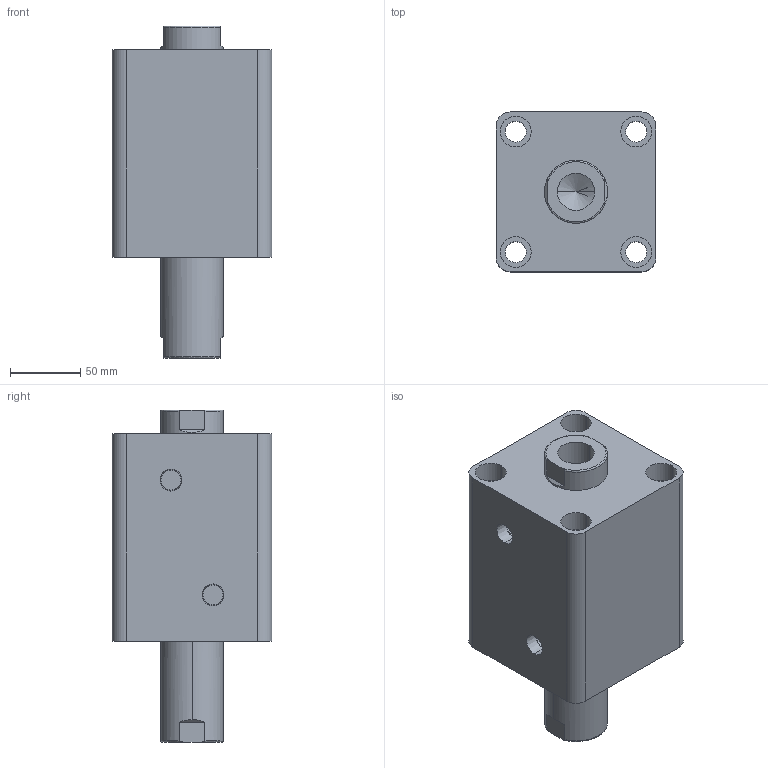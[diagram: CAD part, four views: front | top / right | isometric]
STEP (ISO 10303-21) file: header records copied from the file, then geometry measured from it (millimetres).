
FILE_DESCRIPTION (( 'STEP AP203' ), '1' );
FILE_NAME ('HTB-SW80-55N.STEP', '2019-10-07T10:23:27', ( '微软用户' ), ( '微软中国' ), 'SwSTEP 2.0', 'SolidWorks 2012', '' );
FILE_SCHEMA (( 'CONFIG_CONTROL_DESIGN' ));
Length unit declared in the file: millimetre
Products named in the file (3): HTB-SW80-55N; HTB-SW80-55N活塞杆; HTB-SW80-55掛极
Assembly tree (2 placements, depth 2):
  HTB-SW80-55N
    HTB-SW80-55掛极
    HTB-SW80-55N活塞杆
Bounding box: 114 x 114 x 237 mm (x, y, z)
Volume: 1698174.3 mm3; surface area: 206201.3 mm2
Topology: 2 solids, 2 shells, 100 faces, 228 edges, 146 vertices
Faces by surface type: cylinder 48, plane 32, torus 12, cone 8
Entity records: 3237 total; most frequent: CARTESIAN_POINT 595, DIRECTION 542, ORIENTED_EDGE 448, AXIS2_PLACEMENT_3D 229, EDGE_CURVE 224, VERTEX_POINT 146, EDGE_LOOP 128, CIRCLE 124
